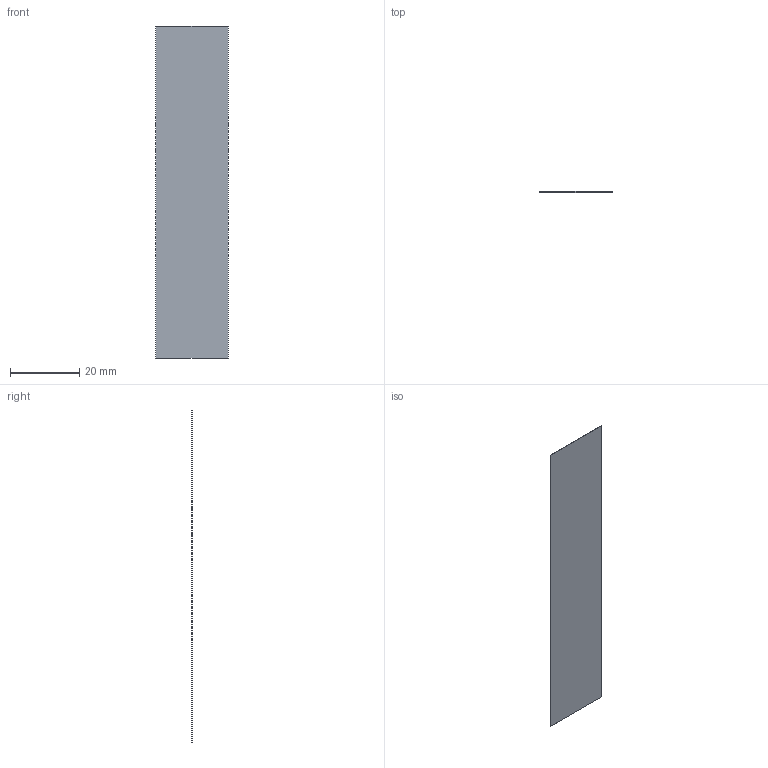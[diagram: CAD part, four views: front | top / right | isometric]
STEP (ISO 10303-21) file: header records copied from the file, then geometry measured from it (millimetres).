
FILE_DESCRIPTION(('Open CASCADE Model'),'2;1');
FILE_NAME('lte_backing_adhesive_0_2','2026-09-08T13:43:18',('Author'),( 'Open CASCADE'),'Open CASCADE STEP processor 7.8','build123d', 'Unknown');
FILE_SCHEMA(('AUTOMOTIVE_DESIGN { 1 0 10303 214 1 1 1 1 }'));
Length unit declared in the file: millimetre
Products named in the file (3): =>[0:1:1:2]; lte_backing_adhesive_0_2; SOLID
Assembly tree (2 placements, depth 3):
  =>[0:1:1:2]
    lte_backing_adhesive_0_2
      SOLID
Bounding box: 21 x 0.2 x 96 mm (x, y, z)
Volume: 403.2 mm3; surface area: 4078.8 mm2
Topology: 1 solids, 1 shells, 6 faces, 12 edges, 8 vertices
Faces by surface type: plane 6
Entity records: 358 total; most frequent: DIRECTION 54, CARTESIAN_POINT 53, LINE 36, VECTOR 36, ORIENTED_EDGE 24, PCURVE 24, DEFINITIONAL_REPRESENTATION 24, EDGE_CURVE 12
